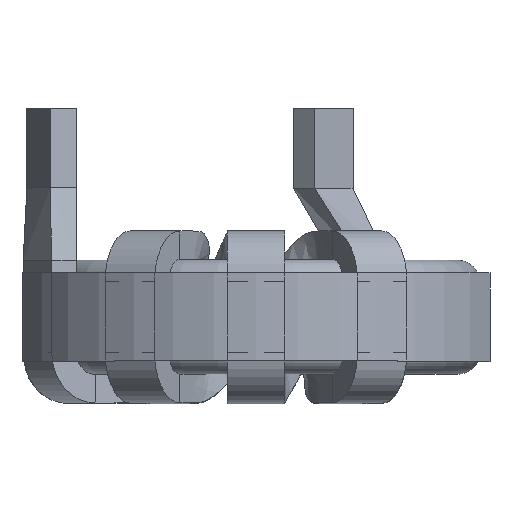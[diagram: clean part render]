
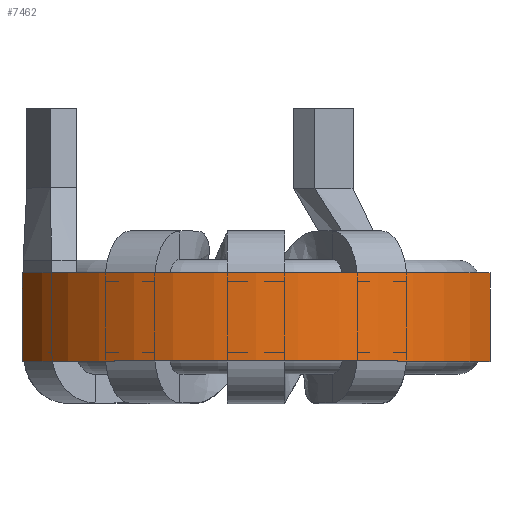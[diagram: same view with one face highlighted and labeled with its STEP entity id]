
A CAD part, top view. The second image highlights one B-rep face of the part: STEP entity #7462.
In plain terms, the highlighted cylindrical face has radius 23.133 mm (diameter 46.265 mm), a partial arc.
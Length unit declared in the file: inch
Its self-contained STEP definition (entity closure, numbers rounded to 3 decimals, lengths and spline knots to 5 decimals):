
#208 = LINE ( 'NONE', #4609, #2218 ) ;
#219 = EDGE_CURVE ( 'NONE', #5179, #3063, #208, .T. ) ;
#360 = ORIENTED_EDGE ( 'NONE', *, *, #10243, .F. ) ;
#590 = CARTESIAN_POINT ( 'NONE',  ( -0.83533, 0.15748, 0.36284 ) ) ;
#747 = VERTEX_POINT ( 'NONE', #1578 ) ;
#1578 = CARTESIAN_POINT ( 'NONE',  ( 0.83533, 0.15748, 0.36284 ) ) ;
#1782 = CARTESIAN_POINT ( 'NONE',  ( 0., -0.15748, 0. ) ) ;
#2211 = VERTEX_POINT ( 'NONE', #5765 ) ;
#2218 = VECTOR ( 'NONE', #4054, 39.37008 ) ;
#2899 = DIRECTION ( 'NONE',  ( 0., 0., 1. ) ) ;
#2998 = AXIS2_PLACEMENT_3D ( 'NONE', #1782, #8239, #2899 ) ;
#3063 = VERTEX_POINT ( 'NONE', #7438 ) ;
#3642 = CYLINDRICAL_SURFACE ( 'NONE', #6200, 0.91073 ) ;
#4054 = DIRECTION ( 'NONE',  ( 0., -1., 0. ) ) ;
#4131 = CIRCLE ( 'NONE', #7426, 0.91073 ) ;
#4192 = FACE_OUTER_BOUND ( 'NONE', #8245, .T. ) ;
#4609 = CARTESIAN_POINT ( 'NONE',  ( -0.83533, 0.15748, 0.36284 ) ) ;
#4764 = DIRECTION ( 'NONE',  ( 0., -1., 0. ) ) ;
#4984 = DIRECTION ( 'NONE',  ( 0., 1., 0. ) ) ;
#5179 = VERTEX_POINT ( 'NONE', #590 ) ;
#5637 = CARTESIAN_POINT ( 'NONE',  ( 0.83533, 0.15748, 0.36284 ) ) ;
#5765 = CARTESIAN_POINT ( 'NONE',  ( 0.83533, -0.15748, 0.36284 ) ) ;
#5766 = EDGE_CURVE ( 'NONE', #747, #2211, #7468, .T. ) ;
#6200 = AXIS2_PLACEMENT_3D ( 'NONE', #10129, #4764, #9211 ) ;
#6309 = VECTOR ( 'NONE', #8015, 39.37008 ) ;
#6317 = EDGE_CURVE ( 'NONE', #3063, #2211, #8808, .T. ) ;
#7426 = AXIS2_PLACEMENT_3D ( 'NONE', #9815, #4984, #10537 ) ;
#7438 = CARTESIAN_POINT ( 'NONE',  ( -0.83533, -0.15748, 0.36284 ) ) ;
#7462 = ADVANCED_FACE ( 'NONE', ( #4192 ), #3642, .T. ) ;
#7468 = LINE ( 'NONE', #5637, #6309 ) ;
#8015 = DIRECTION ( 'NONE',  ( 0., -1., 0. ) ) ;
#8239 = DIRECTION ( 'NONE',  ( 0., 1., 0. ) ) ;
#8245 = EDGE_LOOP ( 'NONE', ( #8466, #10474, #360, #8535 ) ) ;
#8466 = ORIENTED_EDGE ( 'NONE', *, *, #6317, .T. ) ;
#8535 = ORIENTED_EDGE ( 'NONE', *, *, #219, .T. ) ;
#8808 = CIRCLE ( 'NONE', #2998, 0.91073 ) ;
#9211 = DIRECTION ( 'NONE',  ( 0., 0., -1. ) ) ;
#9815 = CARTESIAN_POINT ( 'NONE',  ( 0., 0.15748, 0. ) ) ;
#10129 = CARTESIAN_POINT ( 'NONE',  ( 0., 0.15748, 0. ) ) ;
#10243 = EDGE_CURVE ( 'NONE', #5179, #747, #4131, .T. ) ;
#10474 = ORIENTED_EDGE ( 'NONE', *, *, #5766, .F. ) ;
#10537 = DIRECTION ( 'NONE',  ( 0., 0., 1. ) ) ;
